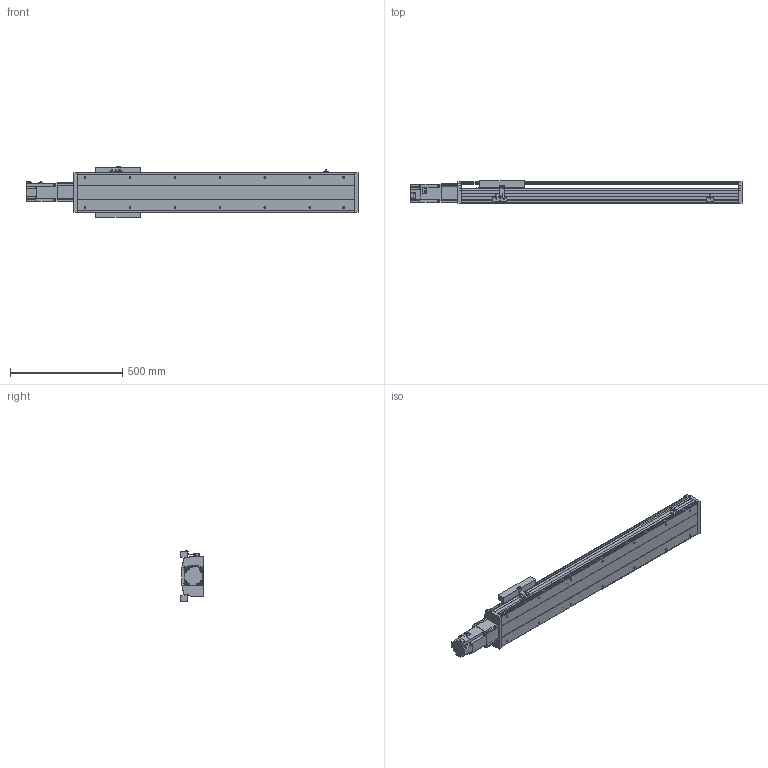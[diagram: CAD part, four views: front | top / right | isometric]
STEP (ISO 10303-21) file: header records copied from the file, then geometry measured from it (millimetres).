
FILE_DESCRIPTION( ( 'STEP AP214' ), '1' );
FILE_NAME( 'x:/temp/worker_27/temp/exporttempdir_6708_411_0XCLZ/format_0/PSS200-L10-S900-BC-T75-C1-N(0).stp', '2022-06-06T02:36:53', ( 'License CC BY-ND 4.0' ), ( 'CADENAS' ), ' ', 'PARTsolutions', ' ' );
FILE_SCHEMA( ( 'AUTOMOTIVE_DESIGN { 1 0 10303 214 1 1 1 1 }' ) );
Length unit declared in the file: millimetre
Products named in the file (8): PSS200-L10-S900-BC-T75-C1-N(0); _PSS200-S900-BC-C1-N_body; _PSS200-N_Q; _PSS200-BC-C1-N_sl; _PSS200-N_sensor; _PSS200BC-N_h; _T75-p1; _PSS200-S900-BC-N_S
Assembly tree (9 placements, depth 2):
  PSS200-L10-S900-BC-T75-C1-N(0)
    _PSS200-S900-BC-C1-N_body
    _PSS200-N_Q
    _PSS200-BC-C1-N_sl
    _PSS200-N_sensor  x3
    _PSS200BC-N_h
    _T75-p1
    _PSS200-S900-BC-N_S
Bounding box: 1476.3 x 101.5 x 223.86 mm (x, y, z)
Volume: 8153648.9 mm3; surface area: 2065180.6 mm2
Topology: 9 solids, 9 shells, 581 faces, 1555 edges, 1032 vertices
Faces by surface type: plane 439, cylinder 120, cone 22
Full cylindrical faces by diameter (mm): 4 x2, 4.5 x4, 6 x11, 6.647 x18, 8 x8, 10 x6, 25 x1, 67 x1, 70 x1
Entity records: 20371 total; most frequent: CARTESIAN_POINT 2840, DIRECTION 2661, ORIENTED_EDGE 2642, EDGE_CURVE 1321, LINE 1051, VECTOR 1051, VERTEX_POINT 920, AXIS2_PLACEMENT_3D 805
